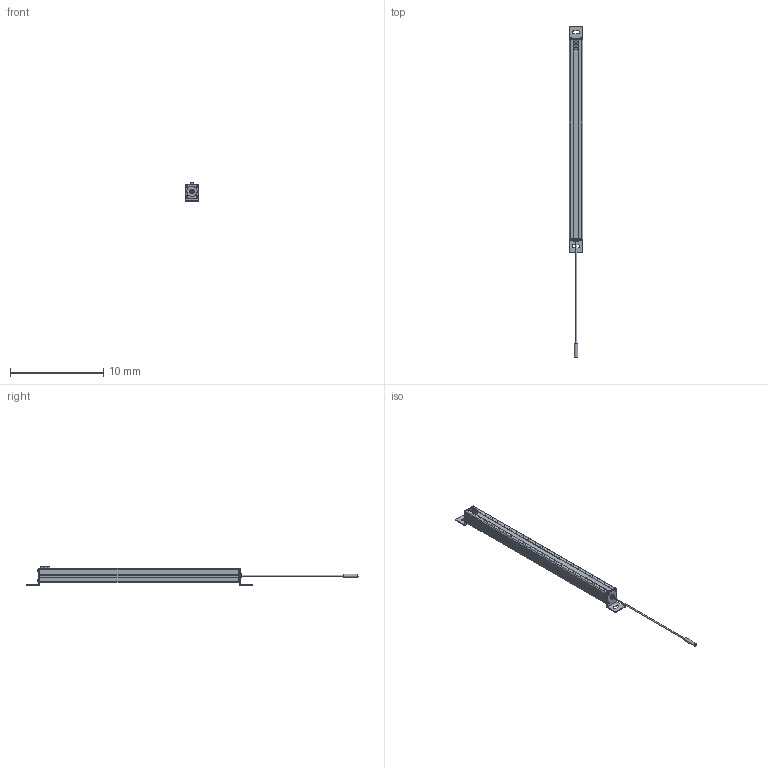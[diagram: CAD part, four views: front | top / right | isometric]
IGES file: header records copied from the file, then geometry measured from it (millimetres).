
Start section:  Autodesk DirectConnect version 7.0.27.0 ---- IGES version 5.3
Global section: file name: C:\ACADFILES\SS_PYLONS\CUSTOMER_FILES\SS-20-PYLON_3D_L.iges; native system: Autodesk DirectConnect 7.0.27.0; preprocessor: 7.0.27.0; author: ENGINEERMAIN; organization: Unknown; date: 20150810.124349; units: millimetre
Bounding box: 1.46 x 35.52 x 2.11 mm (x, y, z)
Surface area: 340.9 mm2 (no closed solid volume)
Topology: 0 solids, 0 shells, 475 faces, 2604 edges, 2623 vertices
Faces by surface type: bspline 475
